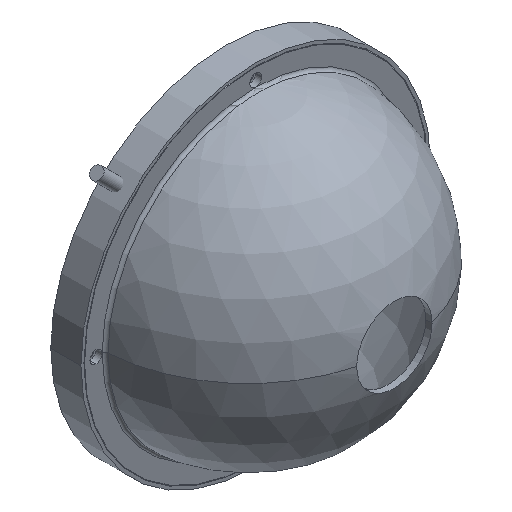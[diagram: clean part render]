
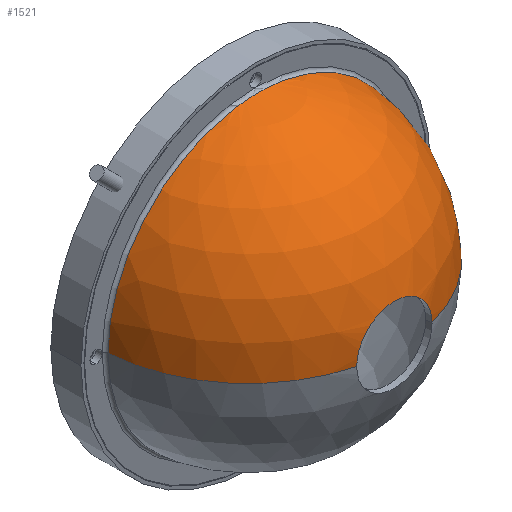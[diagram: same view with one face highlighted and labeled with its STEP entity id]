
A CAD part, isometric view. The second image highlights one B-rep face of the part: STEP entity #1521.
In plain terms, the highlighted spherical face has radius 50.061 mm.
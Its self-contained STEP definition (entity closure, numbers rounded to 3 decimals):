
#70 = AXIS2_PLACEMENT_3D ( 'NONE', #1132, #119, #977 ) ;
#119 = DIRECTION ( 'NONE',  ( 0., 0., 1. ) ) ;
#163 = EDGE_CURVE ( 'NONE', #1246, #1715, #1807, .T. ) ;
#251 = ORIENTED_EDGE ( 'NONE', *, *, #616, .T. ) ;
#275 = ORIENTED_EDGE ( 'NONE', *, *, #163, .F. ) ;
#311 = CIRCLE ( 'NONE', #1821, 12.5 ) ;
#547 = EDGE_LOOP ( 'NONE', ( #1694, #251, #1496, #275 ) ) ;
#562 = DIRECTION ( 'NONE',  ( 0., 0., -1. ) ) ;
#607 = DIRECTION ( 'NONE',  ( -1., 0., 0. ) ) ;
#616 = EDGE_CURVE ( 'NONE', #1623, #651, #311, .T. ) ;
#651 = VERTEX_POINT ( 'NONE', #1610 ) ;
#695 = DIRECTION ( 'NONE',  ( -1., 0., 0. ) ) ;
#713 = CARTESIAN_POINT ( 'NONE',  ( 49.945, -10.932, 0. ) ) ;
#746 = CARTESIAN_POINT ( 'NONE',  ( 0., -56., 0. ) ) ;
#818 = DIRECTION ( 'NONE',  ( 1., 0., 0. ) ) ;
#847 = CARTESIAN_POINT ( 'NONE',  ( 0., -10.932, 0. ) ) ;
#947 = CARTESIAN_POINT ( 'NONE',  ( 0., -7.524, 0. ) ) ;
#977 = DIRECTION ( 'NONE',  ( 1., 0., 0. ) ) ;
#1132 = CARTESIAN_POINT ( 'NONE',  ( 0., -7.524, 0. ) ) ;
#1153 = CIRCLE ( 'NONE', #1633, 50.061 ) ;
#1246 = VERTEX_POINT ( 'NONE', #1382 ) ;
#1293 = DIRECTION ( 'NONE',  ( -1., 0., 0. ) ) ;
#1298 = EDGE_CURVE ( 'NONE', #1623, #1246, #1153, .T. ) ;
#1312 = CIRCLE ( 'NONE', #70, 50.061 ) ;
#1319 = CARTESIAN_POINT ( 'NONE',  ( -12.5, -56., 0. ) ) ;
#1382 = CARTESIAN_POINT ( 'NONE',  ( -49.945, -10.932, 0. ) ) ;
#1496 = ORIENTED_EDGE ( 'NONE', *, *, #1771, .T. ) ;
#1510 = AXIS2_PLACEMENT_3D ( 'NONE', #947, #1825, #818 ) ;
#1521 = ADVANCED_FACE ( 'NONE', ( #1618 ), #1639, .T. ) ;
#1610 = CARTESIAN_POINT ( 'NONE',  ( 12.5, -56., 0. ) ) ;
#1614 = DIRECTION ( 'NONE',  ( 0., 1., 0. ) ) ;
#1618 = FACE_OUTER_BOUND ( 'NONE', #547, .T. ) ;
#1623 = VERTEX_POINT ( 'NONE', #1319 ) ;
#1633 = AXIS2_PLACEMENT_3D ( 'NONE', #1722, #562, #1293 ) ;
#1639 = SPHERICAL_SURFACE ( 'NONE', #1510, 50.061 ) ;
#1652 = AXIS2_PLACEMENT_3D ( 'NONE', #847, #1712, #695 ) ;
#1694 = ORIENTED_EDGE ( 'NONE', *, *, #1298, .F. ) ;
#1712 = DIRECTION ( 'NONE',  ( 0., 1., 0. ) ) ;
#1715 = VERTEX_POINT ( 'NONE', #713 ) ;
#1722 = CARTESIAN_POINT ( 'NONE',  ( 0., -7.524, 0. ) ) ;
#1771 = EDGE_CURVE ( 'NONE', #651, #1715, #1312, .T. ) ;
#1807 = CIRCLE ( 'NONE', #1652, 49.945 ) ;
#1821 = AXIS2_PLACEMENT_3D ( 'NONE', #746, #1614, #607 ) ;
#1825 = DIRECTION ( 'NONE',  ( 0., 0., -1. ) ) ;
